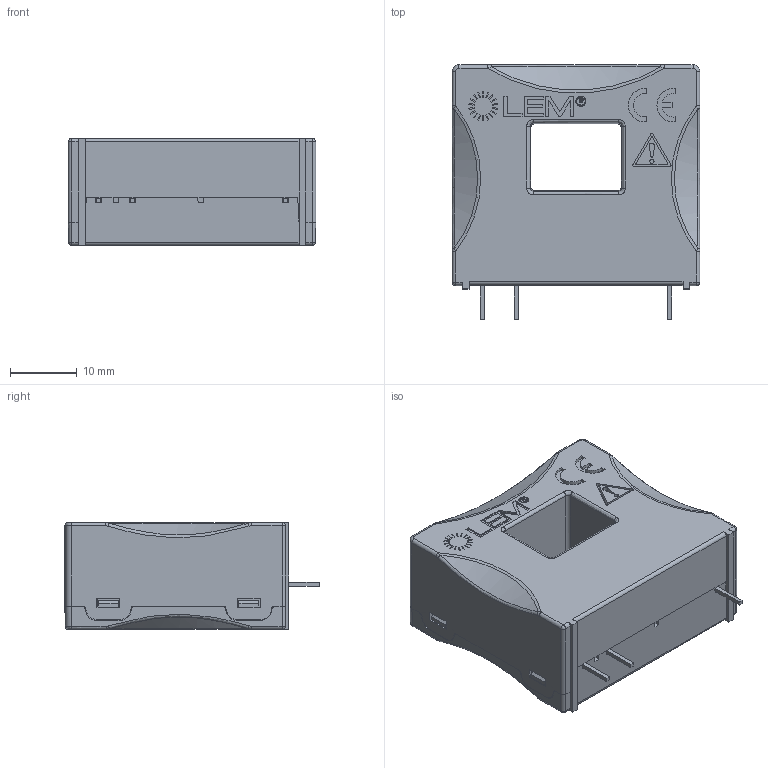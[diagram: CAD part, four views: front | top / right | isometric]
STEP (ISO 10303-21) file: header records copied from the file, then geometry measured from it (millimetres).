
FILE_DESCRIPTION(('CoCreate Modeling STEP Export'),'2;1');
FILE_NAME('LA150-P BLACKBOX.stp','2012-06-26T10:22:20',(''),(''),'Creo Elements/Direct Modeling STEP processor for AP214 (Solid Model)','Creo Elements/Direct Modeling 17.0C 05-Feb-2011 (C) Parametric Technology GmbH','');
FILE_SCHEMA(('AUTOMOTIVE_DESIGN { 1 0 10303 214 1 1 1 1 }'));
Length unit declared in the file: millimetre
Products named in the file (2): LA150-P
Assembly tree (1 placements, depth 2):
  LA150-P
    LA150-P
Bounding box: 37 x 38 x 16 mm (x, y, z)
Volume: 16766.4 mm3; surface area: 6813.9 mm2
Topology: 1 solids, 1 shells, 582 faces, 1534 edges, 982 vertices
Faces by surface type: plane 371, cylinder 110, bspline 64, extrusion 18, torus 8, cone 7, sphere 4
Entity records: 22458 total; most frequent: CARTESIAN_POINT 8522, ORIENTED_EDGE 3060, DIRECTION 2375, EDGE_CURVE 1530, VECTOR 1093, LINE 1075, VERTEX_POINT 982, AXIS2_PLACEMENT_3D 641
